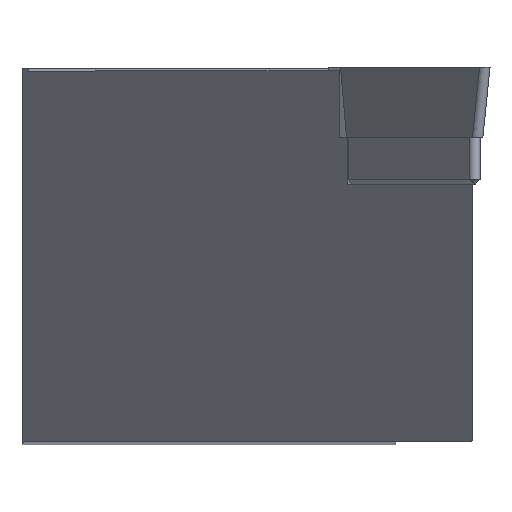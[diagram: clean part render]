
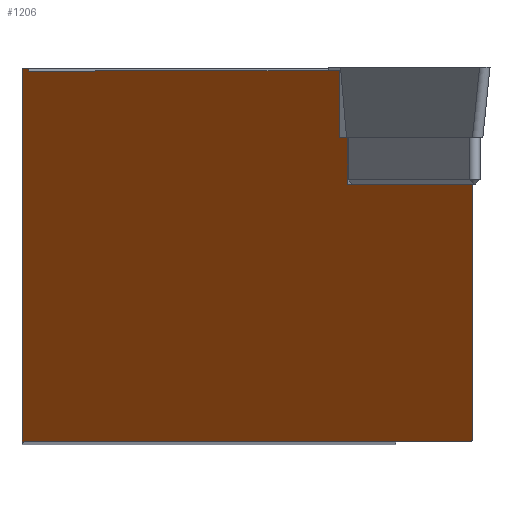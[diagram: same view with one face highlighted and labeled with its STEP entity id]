
A CAD part, top view. The second image highlights one B-rep face of the part: STEP entity #1206.
In plain terms, the highlighted planar face has unit normal (-0.788, 0, 0.616).
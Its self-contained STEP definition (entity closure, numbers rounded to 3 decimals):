
#19 = DIRECTION ( 'NONE',  ( 0., 1., 0. ) ) ;
#35 = DIRECTION ( 'NONE',  ( 0., -1., 0. ) ) ;
#60 = CARTESIAN_POINT ( 'NONE',  ( -15.875, 12.7, -39.862 ) ) ;
#83 = EDGE_CURVE ( 'NONE', #489, #900, #124, .T. ) ;
#87 = EDGE_LOOP ( 'NONE', ( #1013, #1982, #787, #129, #1495, #430, #1864, #795, #899, #986 ) ) ;
#111 = CARTESIAN_POINT ( 'NONE',  ( 6.256, 4.76, -11.536 ) ) ;
#115 = EDGE_CURVE ( 'NONE', #1000, #178, #515, .T. ) ;
#124 = LINE ( 'NONE', #884, #942 ) ;
#129 = ORIENTED_EDGE ( 'NONE', *, *, #1595, .T. ) ;
#168 = VERTEX_POINT ( 'NONE', #907 ) ;
#178 = VERTEX_POINT ( 'NONE', #1544 ) ;
#182 = VERTEX_POINT ( 'NONE', #111 ) ;
#216 = EDGE_CURVE ( 'NONE', #1764, #1000, #1452, .T. ) ;
#243 = VERTEX_POINT ( 'NONE', #1417 ) ;
#253 = DIRECTION ( 'NONE',  ( -0.616, 0., -0.788 ) ) ;
#286 = VECTOR ( 'NONE', #253, 1000. ) ;
#321 = EDGE_CURVE ( 'NONE', #489, #168, #1592, .T. ) ;
#346 = CARTESIAN_POINT ( 'NONE',  ( -15.42, 12.7, -39.28 ) ) ;
#427 = CARTESIAN_POINT ( 'NONE',  ( -1.752, 7.94, -21.785 ) ) ;
#430 = ORIENTED_EDGE ( 'NONE', *, *, #83, .T. ) ;
#451 = CARTESIAN_POINT ( 'NONE',  ( 5.672, 12.5, -12.283 ) ) ;
#489 = VERTEX_POINT ( 'NONE', #511 ) ;
#511 = CARTESIAN_POINT ( 'NONE',  ( 5.672, 7.94, -12.283 ) ) ;
#515 = LINE ( 'NONE', #60, #528 ) ;
#528 = VECTOR ( 'NONE', #1386, 1000. ) ;
#540 = CARTESIAN_POINT ( 'NONE',  ( 3.464, 12.5, -15.109 ) ) ;
#554 = LINE ( 'NONE', #1328, #746 ) ;
#696 = CARTESIAN_POINT ( 'NONE',  ( 14.736, 15.68, -0.682 ) ) ;
#726 = AXIS2_PLACEMENT_3D ( 'NONE', #776, #1285, #768 ) ;
#746 = VECTOR ( 'NONE', #19, 1000. ) ;
#768 = DIRECTION ( 'NONE',  ( 0.616, 0., 0.788 ) ) ;
#776 = CARTESIAN_POINT ( 'NONE',  ( -21.121, 15.68, -46.577 ) ) ;
#787 = ORIENTED_EDGE ( 'NONE', *, *, #1601, .F. ) ;
#795 = ORIENTED_EDGE ( 'NONE', *, *, #1555, .T. ) ;
#884 = CARTESIAN_POINT ( 'NONE',  ( 5.672, 10., -12.283 ) ) ;
#899 = ORIENTED_EDGE ( 'NONE', *, *, #1723, .F. ) ;
#900 = VERTEX_POINT ( 'NONE', #451 ) ;
#903 = LINE ( 'NONE', #540, #2013 ) ;
#907 = CARTESIAN_POINT ( 'NONE',  ( 6.256, 7.94, -11.536 ) ) ;
#942 = VECTOR ( 'NONE', #1548, 1000. ) ;
#974 = FACE_OUTER_BOUND ( 'NONE', #87, .T. ) ;
#986 = ORIENTED_EDGE ( 'NONE', *, *, #115, .F. ) ;
#1000 = VERTEX_POINT ( 'NONE', #1267 ) ;
#1013 = ORIENTED_EDGE ( 'NONE', *, *, #216, .F. ) ;
#1036 = VECTOR ( 'NONE', #2088, 1000. ) ;
#1076 = DIRECTION ( 'NONE',  ( 0.616, 0., 0.788 ) ) ;
#1089 = CARTESIAN_POINT ( 'NONE',  ( -15.42, 12.5, -39.28 ) ) ;
#1092 = VECTOR ( 'NONE', #35, 1000. ) ;
#1206 = ADVANCED_FACE ( 'NONE', ( #974 ), #1943, .T. ) ;
#1263 = EDGE_CURVE ( 'NONE', #900, #1734, #903, .T. ) ;
#1267 = CARTESIAN_POINT ( 'NONE',  ( -15.875, -12.7, -39.862 ) ) ;
#1285 = DIRECTION ( 'NONE',  ( -0.788, 0., 0.616 ) ) ;
#1328 = CARTESIAN_POINT ( 'NONE',  ( -15.42, 12.5, -39.28 ) ) ;
#1386 = DIRECTION ( 'NONE',  ( 0., 1., 0. ) ) ;
#1417 = CARTESIAN_POINT ( 'NONE',  ( 14.736, 4.76, -0.682 ) ) ;
#1452 = LINE ( 'NONE', #1581, #286 ) ;
#1480 = LINE ( 'NONE', #2076, #1036 ) ;
#1487 = CARTESIAN_POINT ( 'NONE',  ( 6.256, 4.76, -11.536 ) ) ;
#1495 = ORIENTED_EDGE ( 'NONE', *, *, #321, .F. ) ;
#1544 = CARTESIAN_POINT ( 'NONE',  ( -15.875, 12.7, -39.862 ) ) ;
#1548 = DIRECTION ( 'NONE',  ( 0., 1., 0. ) ) ;
#1555 = EDGE_CURVE ( 'NONE', #1734, #1569, #554, .T. ) ;
#1569 = VERTEX_POINT ( 'NONE', #346 ) ;
#1581 = CARTESIAN_POINT ( 'NONE',  ( -21.121, -12.7, -46.577 ) ) ;
#1592 = LINE ( 'NONE', #427, #1649 ) ;
#1595 = EDGE_CURVE ( 'NONE', #182, #168, #1951, .T. ) ;
#1601 = EDGE_CURVE ( 'NONE', #182, #243, #1480, .T. ) ;
#1649 = VECTOR ( 'NONE', #1729, 1000. ) ;
#1650 = DIRECTION ( 'NONE',  ( 0., 1., 0. ) ) ;
#1723 = EDGE_CURVE ( 'NONE', #178, #1569, #1909, .T. ) ;
#1726 = CARTESIAN_POINT ( 'NONE',  ( -69.648, 12.7, -108.688 ) ) ;
#1729 = DIRECTION ( 'NONE',  ( 0.616, 0., 0.788 ) ) ;
#1734 = VERTEX_POINT ( 'NONE', #1089 ) ;
#1764 = VERTEX_POINT ( 'NONE', #1932 ) ;
#1864 = ORIENTED_EDGE ( 'NONE', *, *, #1263, .T. ) ;
#1868 = VECTOR ( 'NONE', #1076, 1000. ) ;
#1898 = VECTOR ( 'NONE', #1650, 1000. ) ;
#1909 = LINE ( 'NONE', #1726, #1868 ) ;
#1932 = CARTESIAN_POINT ( 'NONE',  ( 14.736, -12.7, -0.682 ) ) ;
#1943 = PLANE ( 'NONE',  #726 ) ;
#1951 = LINE ( 'NONE', #1487, #1898 ) ;
#1967 = LINE ( 'NONE', #696, #1092 ) ;
#1982 = ORIENTED_EDGE ( 'NONE', *, *, #2035, .F. ) ;
#2005 = DIRECTION ( 'NONE',  ( -0.616, 0., -0.788 ) ) ;
#2013 = VECTOR ( 'NONE', #2005, 1000. ) ;
#2035 = EDGE_CURVE ( 'NONE', #243, #1764, #1967, .T. ) ;
#2076 = CARTESIAN_POINT ( 'NONE',  ( -0.69, 4.76, -20.427 ) ) ;
#2088 = DIRECTION ( 'NONE',  ( 0.616, 0., 0.788 ) ) ;
